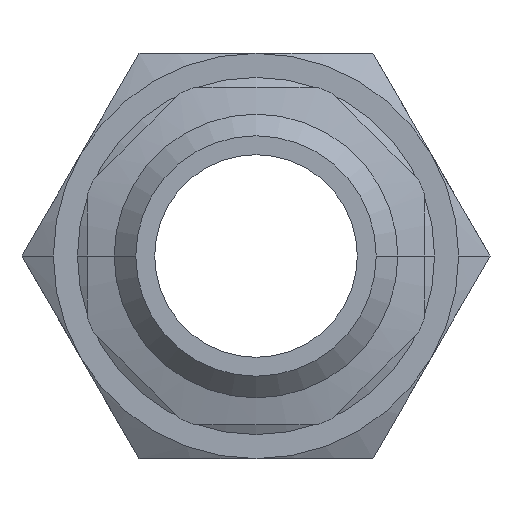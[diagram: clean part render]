
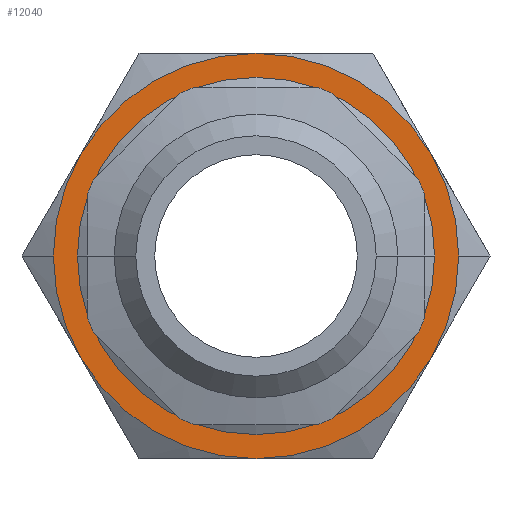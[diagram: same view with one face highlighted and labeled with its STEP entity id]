
A CAD part, left-side view. The second image highlights one B-rep face of the part: STEP entity #12040.
In plain terms, the highlighted planar face has unit normal (-1, 0, 0).
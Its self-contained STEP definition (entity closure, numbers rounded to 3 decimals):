
#10520=CARTESIAN_POINT('',(-73.194,103.88,0.));
#10530=DIRECTION('',(1.,0.,0.));
#10540=DIRECTION('',(0.,-1.,0.));
#10550=AXIS2_PLACEMENT_3D('',#10520,#10530,#10540);
#10560=CIRCLE('',#10550,15.);
#10570=CARTESIAN_POINT('',(-73.194,116.871,
7.5));
#10580=VERTEX_POINT('',#10570);
#10590=CARTESIAN_POINT('',(-73.194,103.88,15.));
#10600=VERTEX_POINT('',#10590);
#10610=EDGE_CURVE('',#10580,#10600,#10560,.T.);
#11550=CARTESIAN_POINT('',(-73.194,117.41,
0.));
#11560=DIRECTION('',(-1.,0.,0.));
#11570=DIRECTION('',(0.,0.,1.));
#11580=AXIS2_PLACEMENT_3D('',#11550,#11560,#11570);
#11590=PLANE('',#11580);
#11600=CARTESIAN_POINT('',(-73.194,103.88,0.));
#11610=DIRECTION('',(-1.,0.,0.));
#11620=DIRECTION('',(0.,1.,0.));
#11630=AXIS2_PLACEMENT_3D('',#11600,#11610,#11620);
#11640=CIRCLE('',#11630,13.221);
#11650=CARTESIAN_POINT('',(-73.194,117.101,0.));
#11660=VERTEX_POINT('',#11650);
#11670=CARTESIAN_POINT('',(-73.194,90.66,
0.));
#11680=VERTEX_POINT('',#11670);
#11690=EDGE_CURVE('',#11660,#11680,#11640,.T.);
#11700=ORIENTED_EDGE('',*,*,#11690,.F.);
#11710=EDGE_CURVE('',#11680,#11660,#11640,.T.);
#11720=ORIENTED_EDGE('',*,*,#11710,.F.);
#11730=EDGE_LOOP('',(#11720,#11700));
#11740=FACE_BOUND('',#11730,.T.);
#11750=CARTESIAN_POINT('',(-73.194,90.89,
-7.5));
#11760=VERTEX_POINT('',#11750);
#11770=CARTESIAN_POINT('',(-73.194,103.88,-15.));
#11780=VERTEX_POINT('',#11770);
#11790=EDGE_CURVE('',#11760,#11780,#10560,.T.);
#11800=ORIENTED_EDGE('',*,*,#11790,.F.);
#11810=CARTESIAN_POINT('',(-73.194,116.871,
-7.5));
#11820=VERTEX_POINT('',#11810);
#11830=EDGE_CURVE('',#11780,#11820,#10560,.T.);
#11840=ORIENTED_EDGE('',*,*,#11830,.F.);
#11850=CARTESIAN_POINT('',(-73.194,118.88,
0.));
#11860=VERTEX_POINT('',#11850);
#11870=EDGE_CURVE('',#11820,#11860,#10560,.T.);
#11880=ORIENTED_EDGE('',*,*,#11870,.F.);
#11890=EDGE_CURVE('',#11860,#10580,#10560,.T.);
#11900=ORIENTED_EDGE('',*,*,#11890,.F.);
#11910=ORIENTED_EDGE('',*,*,#10610,.F.);
#11920=CARTESIAN_POINT('',(-73.194,90.89,
7.5));
#11930=VERTEX_POINT('',#11920);
#11940=EDGE_CURVE('',#10600,#11930,#10560,.T.);
#11950=ORIENTED_EDGE('',*,*,#11940,.F.);
#11960=CARTESIAN_POINT('',(-73.194,88.88,0.));
#11970=VERTEX_POINT('',#11960);
#11980=EDGE_CURVE('',#11930,#11970,#10560,.T.);
#11990=ORIENTED_EDGE('',*,*,#11980,.F.);
#12000=EDGE_CURVE('',#11970,#11760,#10560,.T.);
#12010=ORIENTED_EDGE('',*,*,#12000,.F.);
#12020=EDGE_LOOP('',(#12010,#11990,#11950,#11910,#11900,#11880,#11840,
#11800));
#12030=FACE_OUTER_BOUND('',#12020,.T.);
#12040=ADVANCED_FACE('',(#11740,#12030),#11590,.T.);
